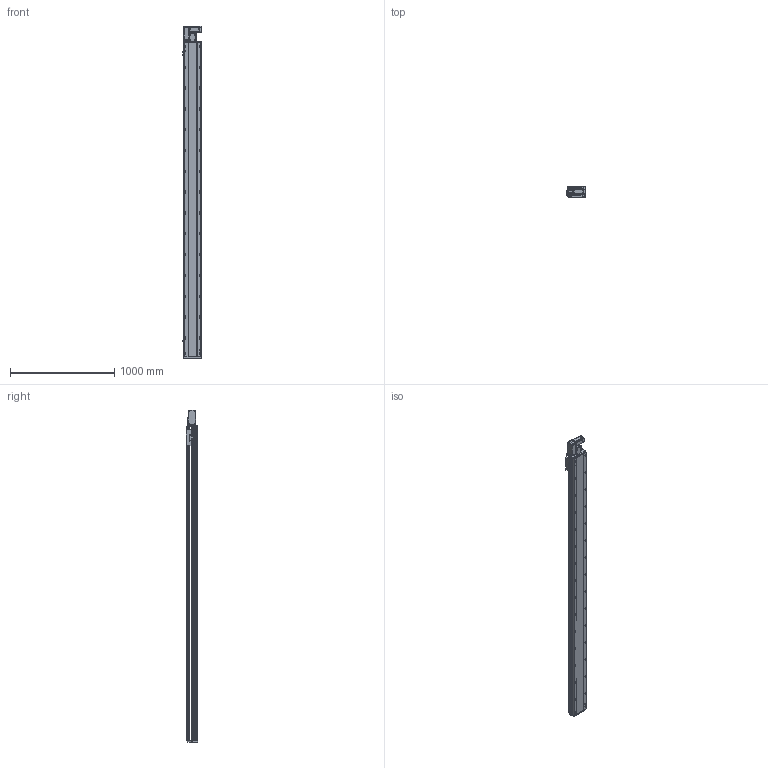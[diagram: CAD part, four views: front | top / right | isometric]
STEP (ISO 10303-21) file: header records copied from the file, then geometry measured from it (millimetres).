
FILE_DESCRIPTION (( 'STEP AP214' ), '1' );
FILE_NAME ('RTB17S-XX-2750-L-M40-C4.STEP', '2025-12-11T05:58:44', ( '' ), ( '' ), 'SwSTEP 2.0', 'SolidWorks 2018', '' );
FILE_SCHEMA (( 'AUTOMOTIVE_DESIGN' ));
Length unit declared in the file: millimetre
Products named in the file (14): RTB14-L-017P^RTB17S-L-皮带座装配-400W_RTB17S-XX-XX-L-M40-C4（方程式）; RTB17S-L-001侧面板^RTB17S-XX-XX-L-M40-C4（方程式）; RTB17-R-011底座^RTB17S-XX-XX-L-M40-C4（方程式）; RMP17S-L-014-T20--皮带座^RTB17S-L-皮带座装配-400W_RTB17S-XX-XX-L-M40-C4（方程式）; RTB17S-L-004丝杆螺母连接座^RTB17S-XX-XX-L-M40-C4（方程式）; OMRON EE-SX672 传感器^RTB17S-XX-XX-L-M40-C4（方程式）; RTB17S-XX-2750-L-M40-C4; RTB17S-L-007上盖^RTB17S-XX-XX-L-M40-C4（方程式）; RTB17S-L-皮带座装配-400W^RTB17S-XX-XX-L-M40-C4（方程式）; RTB14-L-018P^RTB17S-L-皮带座装配-400W_RTB17S-XX-XX-L-M40-C4（方程式）; RTB14-L-008-M20--电机板^RTB17S-L-皮带座装配-400W_RTB17S-XX-XX-L-M40-C4（方程式）; 400W伺服电机^RTB17S-XX-XX-L-M40-C4（方程式）; RTB14-L-005P--轴承塑胶压盖^RTB17S-L-皮带座装配-400W_RTB17S-XX-XX-L-M40-C4（方程式）; RTH13-BL-012感应片外置^RTB17S-XX-XX-L-M40-C4（方程式）
Assembly tree (16 placements, depth 3):
  RTB17S-XX-2750-L-M40-C4
    RTB17-R-011底座^RTB17S-XX-XX-L-M40-C4（方程式）
    RTB17S-L-007上盖^RTB17S-XX-XX-L-M40-C4（方程式）
    OMRON EE-SX672 传感器^RTB17S-XX-XX-L-M40-C4（方程式）  x3
    RTB17S-L-001侧面板^RTB17S-XX-XX-L-M40-C4（方程式）
    400W伺服电机^RTB17S-XX-XX-L-M40-C4（方程式）
    RTB17S-L-004丝杆螺母连接座^RTB17S-XX-XX-L-M40-C4（方程式）
    RTH13-BL-012感应片外置^RTB17S-XX-XX-L-M40-C4（方程式）
    RTB17S-L-皮带座装配-400W^RTB17S-XX-XX-L-M40-C4（方程式）
      RMP17S-L-014-T20--皮带座^RTB17S-L-皮带座装配-400W_RTB17S-XX-XX-L-M40-C4（方程式）
      RTB14-L-005P--轴承塑胶压盖^RTB17S-L-皮带座装配-400W_RTB17S-XX-XX-L-M40-C4（方程式）
      RTB14-L-008-M20--电机板^RTB17S-L-皮带座装配-400W_RTB17S-XX-XX-L-M40-C4（方程式）
      RTB14-L-017P^RTB17S-L-皮带座装配-400W_RTB17S-XX-XX-L-M40-C4（方程式）  x2
      RTB14-L-018P^RTB17S-L-皮带座装配-400W_RTB17S-XX-XX-L-M40-C4（方程式）
Bounding box: 186 x 108 x 3191 mm (x, y, z)
Volume: 26645448.9 mm3; surface area: 3054324.8 mm2
Topology: 15 solids, 15 shells, 2349 faces, 6573 edges, 4293 vertices
Faces by surface type: plane 1086, cylinder 815, bspline 301, cone 139, torus 8
Entity records: 69545 total; most frequent: CARTESIAN_POINT 19778, ORIENTED_EDGE 9990, DIRECTION 9206, EDGE_CURVE 4995, VERTEX_POINT 3281, AXIS2_PLACEMENT_3D 3211, VECTOR 2784, LINE 2784
